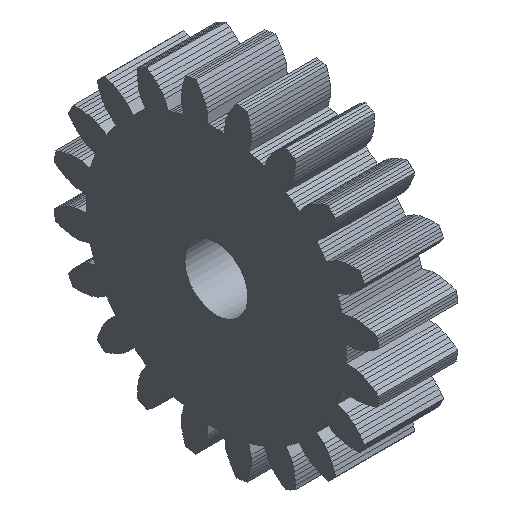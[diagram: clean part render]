
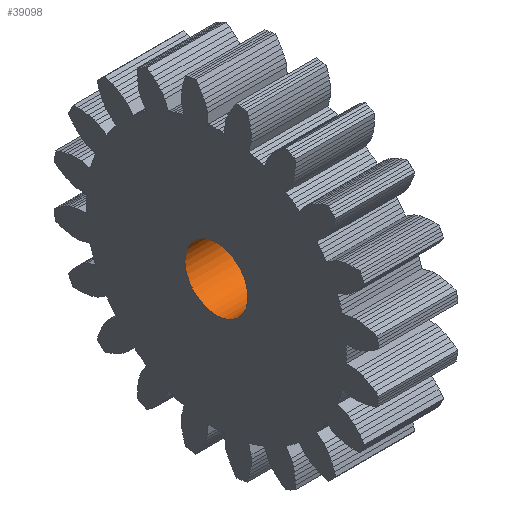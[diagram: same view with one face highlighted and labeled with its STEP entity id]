
A CAD part, isometric view. The second image highlights one B-rep face of the part: STEP entity #39098.
In plain terms, the highlighted cylindrical face has radius 3.175 mm (diameter 6.35 mm), a full revolution.
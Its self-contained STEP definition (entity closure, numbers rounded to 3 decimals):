
#72 = PLANE('',#73);
#73 = AXIS2_PLACEMENT_3D('',#74,#75,#76);
#74 = CARTESIAN_POINT('',(4.,0.,0.));
#75 = DIRECTION('',(1.,0.,0.));
#76 = DIRECTION('',(0.,-0.988,-0.156));
#126 = PLANE('',#127);
#127 = AXIS2_PLACEMENT_3D('',#128,#129,#130);
#128 = CARTESIAN_POINT('',(-4.,0.,0.)
  );
#129 = DIRECTION('',(1.,0.,0.));
#130 = DIRECTION('',(0.,-0.988,-0.156)
  );
#14202 = EDGE_CURVE('',#14203,#14203,#14205,.T.);
#14203 = VERTEX_POINT('',#14204);
#14204 = CARTESIAN_POINT('',(-4.,-3.136,-0.497));
#14205 = SURFACE_CURVE('',#14206,(#14211,#14222),.PCURVE_S1.);
#14206 = CIRCLE('',#14207,3.175);
#14207 = AXIS2_PLACEMENT_3D('',#14208,#14209,#14210);
#14208 = CARTESIAN_POINT('',(-4.,0.,0.));
#14209 = DIRECTION('',(-1.,0.,0.));
#14210 = DIRECTION('',(0.,-0.988,-0.156
    ));
#14211 = PCURVE('',#126,#14212);
#14212 = DEFINITIONAL_REPRESENTATION('',(#14213),#14221);
#14213 = ( BOUNDED_CURVE() B_SPLINE_CURVE(2,(#14214,#14215,#14216,#14217
    ,#14218,#14219,#14220),.UNSPECIFIED.,.T.,.F.) 
B_SPLINE_CURVE_WITH_KNOTS((1,2,2,2,2,1),(-2.094,0.,
    2.094,4.189,6.283,8.378),
.UNSPECIFIED.) CURVE() GEOMETRIC_REPRESENTATION_ITEM() 
RATIONAL_B_SPLINE_CURVE((1.,0.5,1.,0.5,1.,0.5,1.)) REPRESENTATION_ITEM(
  '') );
#14214 = CARTESIAN_POINT('',(3.175,0.));
#14215 = CARTESIAN_POINT('',(3.175,-5.499));
#14216 = CARTESIAN_POINT('',(-1.588,-2.75));
#14217 = CARTESIAN_POINT('',(-6.35,0.));
#14218 = CARTESIAN_POINT('',(-1.588,2.75));
#14219 = CARTESIAN_POINT('',(3.175,5.499));
#14220 = CARTESIAN_POINT('',(3.175,0.));
#14221 = ( GEOMETRIC_REPRESENTATION_CONTEXT(2) 
PARAMETRIC_REPRESENTATION_CONTEXT() REPRESENTATION_CONTEXT('2D SPACE',''
  ) );
#14222 = PCURVE('',#14223,#14228);
#14223 = CYLINDRICAL_SURFACE('',#14224,3.175);
#14224 = AXIS2_PLACEMENT_3D('',#14225,#14226,#14227);
#14225 = CARTESIAN_POINT('',(-4.5,0.,0.));
#14226 = DIRECTION('',(-1.,0.,0.));
#14227 = DIRECTION('',(0.,-0.988,-0.156
    ));
#14228 = DEFINITIONAL_REPRESENTATION('',(#14229),#14233);
#14229 = LINE('',#14230,#14231);
#14230 = CARTESIAN_POINT('',(-6.283,-0.5));
#14231 = VECTOR('',#14232,1.);
#14232 = DIRECTION('',(1.,-0.));
#14233 = ( GEOMETRIC_REPRESENTATION_CONTEXT(2) 
PARAMETRIC_REPRESENTATION_CONTEXT() REPRESENTATION_CONTEXT('2D SPACE',''
  ) );
#25672 = EDGE_CURVE('',#25673,#25673,#25675,.T.);
#25673 = VERTEX_POINT('',#25674);
#25674 = CARTESIAN_POINT('',(4.,-3.136,-0.497));
#25675 = SURFACE_CURVE('',#25676,(#25681,#25692),.PCURVE_S1.);
#25676 = CIRCLE('',#25677,3.175);
#25677 = AXIS2_PLACEMENT_3D('',#25678,#25679,#25680);
#25678 = CARTESIAN_POINT('',(4.,0.,0.));
#25679 = DIRECTION('',(-1.,0.,0.));
#25680 = DIRECTION('',(0.,-0.988,-0.156
    ));
#25681 = PCURVE('',#72,#25682);
#25682 = DEFINITIONAL_REPRESENTATION('',(#25683),#25691);
#25683 = ( BOUNDED_CURVE() B_SPLINE_CURVE(2,(#25684,#25685,#25686,#25687
    ,#25688,#25689,#25690),.UNSPECIFIED.,.T.,.F.) 
B_SPLINE_CURVE_WITH_KNOTS((1,2,2,2,2,1),(-2.094,0.,
    2.094,4.189,6.283,8.378),
.UNSPECIFIED.) CURVE() GEOMETRIC_REPRESENTATION_ITEM() 
RATIONAL_B_SPLINE_CURVE((1.,0.5,1.,0.5,1.,0.5,1.)) REPRESENTATION_ITEM(
  '') );
#25684 = CARTESIAN_POINT('',(3.175,0.));
#25685 = CARTESIAN_POINT('',(3.175,-5.499));
#25686 = CARTESIAN_POINT('',(-1.588,-2.75));
#25687 = CARTESIAN_POINT('',(-6.35,0.));
#25688 = CARTESIAN_POINT('',(-1.588,2.75));
#25689 = CARTESIAN_POINT('',(3.175,5.499));
#25690 = CARTESIAN_POINT('',(3.175,0.));
#25691 = ( GEOMETRIC_REPRESENTATION_CONTEXT(2) 
PARAMETRIC_REPRESENTATION_CONTEXT() REPRESENTATION_CONTEXT('2D SPACE',''
  ) );
#25692 = PCURVE('',#14223,#25693);
#25693 = DEFINITIONAL_REPRESENTATION('',(#25694),#25698);
#25694 = LINE('',#25695,#25696);
#25695 = CARTESIAN_POINT('',(-6.283,-8.5));
#25696 = VECTOR('',#25697,1.);
#25697 = DIRECTION('',(1.,-0.));
#25698 = ( GEOMETRIC_REPRESENTATION_CONTEXT(2) 
PARAMETRIC_REPRESENTATION_CONTEXT() REPRESENTATION_CONTEXT('2D SPACE',''
  ) );
#39098 = ADVANCED_FACE('',(#39099),#14223,.F.);
#39099 = FACE_BOUND('',#39100,.T.);
#39100 = EDGE_LOOP('',(#39101,#39102,#39123,#39124));
#39101 = ORIENTED_EDGE('',*,*,#14202,.T.);
#39102 = ORIENTED_EDGE('',*,*,#39103,.T.);
#39103 = EDGE_CURVE('',#14203,#25673,#39104,.T.);
#39104 = SEAM_CURVE('',#39105,(#39109,#39116),.PCURVE_S1.);
#39105 = LINE('',#39106,#39107);
#39106 = CARTESIAN_POINT('',(-4.5,-3.136,-0.497));
#39107 = VECTOR('',#39108,1.);
#39108 = DIRECTION('',(1.,0.,0.));
#39109 = PCURVE('',#14223,#39110);
#39110 = DEFINITIONAL_REPRESENTATION('',(#39111),#39115);
#39111 = LINE('',#39112,#39113);
#39112 = CARTESIAN_POINT('',(-6.283,0.));
#39113 = VECTOR('',#39114,1.);
#39114 = DIRECTION('',(-0.,-1.));
#39115 = ( GEOMETRIC_REPRESENTATION_CONTEXT(2) 
PARAMETRIC_REPRESENTATION_CONTEXT() REPRESENTATION_CONTEXT('2D SPACE',''
  ) );
#39116 = PCURVE('',#14223,#39117);
#39117 = DEFINITIONAL_REPRESENTATION('',(#39118),#39122);
#39118 = LINE('',#39119,#39120);
#39119 = CARTESIAN_POINT('',(-0.,0.));
#39120 = VECTOR('',#39121,1.);
#39121 = DIRECTION('',(-0.,-1.));
#39122 = ( GEOMETRIC_REPRESENTATION_CONTEXT(2) 
PARAMETRIC_REPRESENTATION_CONTEXT() REPRESENTATION_CONTEXT('2D SPACE',''
  ) );
#39123 = ORIENTED_EDGE('',*,*,#25672,.F.);
#39124 = ORIENTED_EDGE('',*,*,#39103,.F.);
